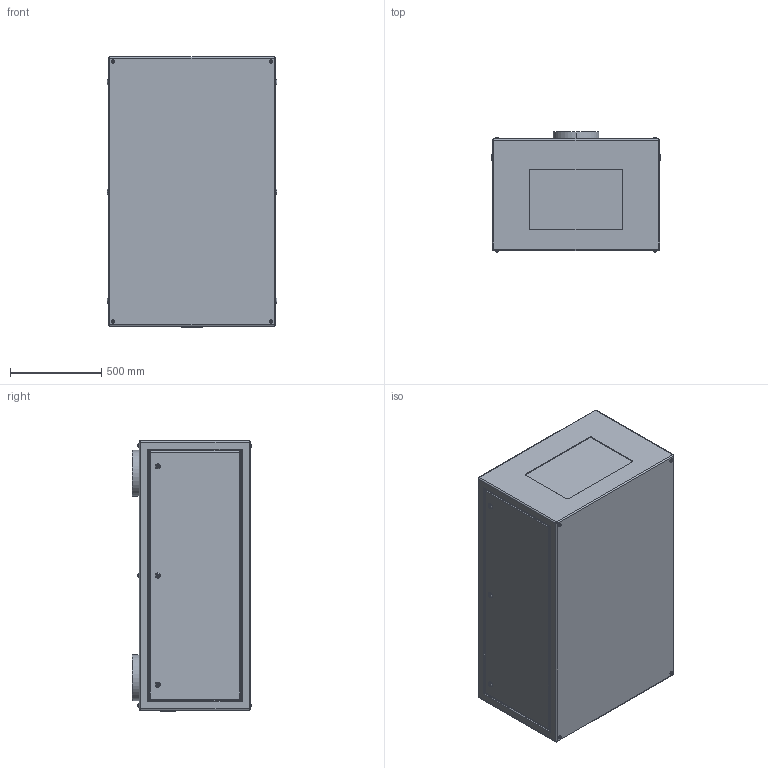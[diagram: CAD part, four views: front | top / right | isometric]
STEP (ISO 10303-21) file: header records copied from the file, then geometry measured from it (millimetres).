
FILE_DESCRIPTION (( 'STEP AP214' ), '1' );
FILE_NAME ('Tacit 56.314.L R08.STEP', '2022-09-11T22:38:48', ( '' ), ( '' ), 'SwSTEP 2.0', 'SolidWorks 2020', '' );
FILE_SCHEMA (( 'AUTOMOTIVE_DESIGN' ));
Length unit declared in the file: inch
Products named in the file (1): Tacit 56.314.L R08
Bounding box: 927.1 x 654.96 x 1478.28 mm (x, y, z)
Volume: 819572327.6 mm3; surface area: 5971310.7 mm2
Topology: 1 solids, 7 shells, 401 faces, 892 edges, 560 vertices
Faces by surface type: plane 177, cylinder 168, torus 48, sphere 8
Entity records: 15011 total; most frequent: CARTESIAN_POINT 2382, DIRECTION 1972, ORIENTED_EDGE 1768, EDGE_CURVE 884, AXIS2_PLACEMENT_3D 782, VERTEX_POINT 560, EDGE_LOOP 464, LINE 408
